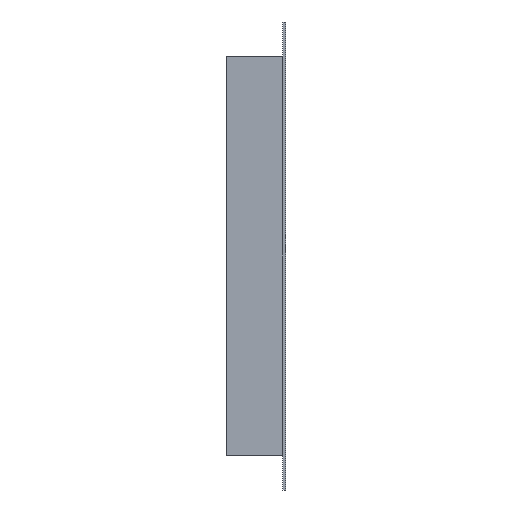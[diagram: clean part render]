
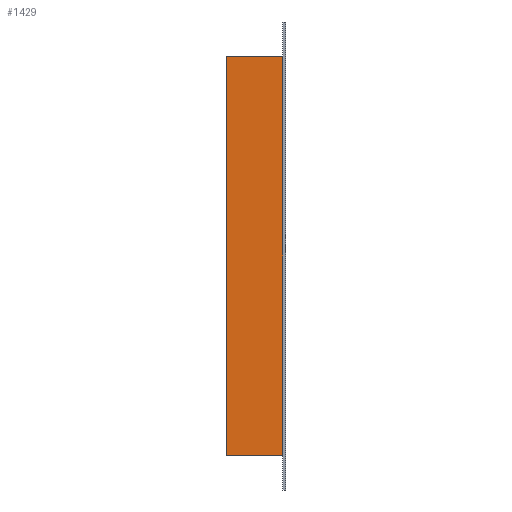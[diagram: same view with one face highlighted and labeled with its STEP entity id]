
A CAD part, left-side view. The second image highlights one B-rep face of the part: STEP entity #1429.
In plain terms, the highlighted planar face has unit normal (-1, 0, 0).
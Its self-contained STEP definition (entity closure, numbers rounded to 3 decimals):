
#80=FACE_OUTER_BOUND('',#154,.T.);
#154=EDGE_LOOP('',(#1279,#1280,#1281,#1282));
#356=LINE('',#2201,#560);
#358=LINE('',#2206,#562);
#359=LINE('',#2207,#563);
#360=LINE('',#2208,#564);
#560=VECTOR('',#1794,10.);
#562=VECTOR('',#1798,10.);
#563=VECTOR('',#1799,10.);
#564=VECTOR('',#1800,10.);
#705=VERTEX_POINT('',#2198);
#706=VERTEX_POINT('',#2200);
#707=VERTEX_POINT('',#2204);
#708=VERTEX_POINT('',#2205);
#900=EDGE_CURVE('',#706,#705,#356,.T.);
#902=EDGE_CURVE('',#707,#708,#358,.T.);
#903=EDGE_CURVE('',#706,#707,#359,.F.);
#904=EDGE_CURVE('',#705,#708,#360,.T.);
#1279=ORIENTED_EDGE('',*,*,#902,.F.);
#1280=ORIENTED_EDGE('',*,*,#903,.F.);
#1281=ORIENTED_EDGE('',*,*,#900,.T.);
#1282=ORIENTED_EDGE('',*,*,#904,.T.);
#1371=PLANE('',#1495);
#1429=ADVANCED_FACE('',(#80),#1371,.T.);
#1495=AXIS2_PLACEMENT_3D('',#2203,#1796,#1797);
#1794=DIRECTION('',(0.,0.,1.));
#1796=DIRECTION('center_axis',(-1.,0.,0.));
#1797=DIRECTION('ref_axis',(0.,0.,1.));
#1798=DIRECTION('',(0.,0.,1.));
#1799=DIRECTION('',(0.,-1.,0.));
#1800=DIRECTION('',(0.,1.,0.));
#2198=CARTESIAN_POINT('',(-200.5,-27.,200.5));
#2200=CARTESIAN_POINT('',(-200.5,-27.,-200.5));
#2201=CARTESIAN_POINT('',(-200.5,-27.,-98.75));
#2203=CARTESIAN_POINT('Origin',(-200.5,-30.,-197.5));
#2204=CARTESIAN_POINT('',(-200.5,30.,-200.5));
#2205=CARTESIAN_POINT('',(-200.5,30.,200.5));
#2206=CARTESIAN_POINT('',(-200.5,30.,-98.75));
#2207=CARTESIAN_POINT('',(-200.5,-30.,-200.5));
#2208=CARTESIAN_POINT('',(-200.5,-30.,200.5));
